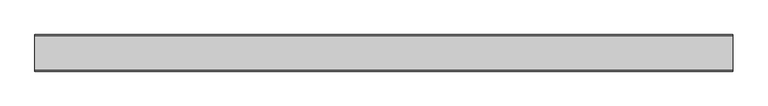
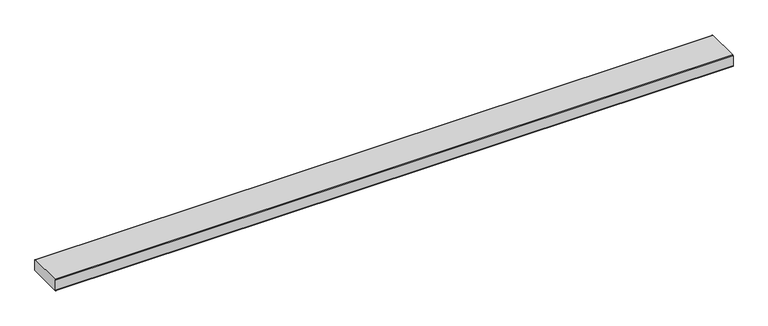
"""IFC4 building model written with IfcOpenShell, lengths in millimetres: duct fitting geometry, Кабель-канал DLP 35x105 - 1 секция - 1 крышка 85 мм - длина 2 м - белый : Кабель-канал DLP 35x105 - 1 секция - 1 крышка 85 мм - длина 2 м - белый."""

from ifc_helpers import new_model, si_unit, point, frame, frame_2d, origin, place, context, project, spatial, polyline, circle_curve, trimmed, segment, composite_curve, outline, extrude, source, transform, mapped, element, save


def duct_fitting_d3901d29(model_context):
    return source(origin(), model_context, "Body", "SweptSolid", [
        extrude(outline(composite_curve([segment(trimmed(circle_curve(frame_2d((50.5, 33.0)), 2.0), [point((50.5, 35.0))], [point((52.5, 33.0))], False, "CARTESIAN"), True, "CONTINUOUS"), segment(polyline([(52.5, 33.0), (52.5, 2.0)]), True, "CONTINUOUS"), segment(trimmed(circle_curve(frame_2d((50.5, 2.0)), 2.0), [point((52.5, 2.0))], [point((50.5, 0.0))], False, "CARTESIAN"), True, "CONTINUOUS"), segment(polyline([(50.5, 0.0), (-50.5, 0.0)]), True, "CONTINUOUS"), segment(trimmed(circle_curve(frame_2d((-50.5, 2.0)), 2.0), [point((-50.5, 0.0))], [point((-52.5, 2.0))], False, "CARTESIAN"), True, "CONTINUOUS"), segment(polyline([(-52.5, 2.0), (-52.5, 33.0)]), True, "CONTINUOUS"), segment(trimmed(circle_curve(frame_2d((-50.5, 33.0)), 2.0), [point((-52.5, 33.0))], [point((-50.5, 35.0))], False, "CARTESIAN"), True, "CONTINUOUS"), segment(polyline([(-50.5, 35.0), (50.5, 35.0)]), True, "CONTINUOUS")], self_intersect=False)), frame((-1000.0, 0.0, 0.0), z_axis=(1.0, 0.0, 0.0), x_axis=(0.0, 1.0, 0.0)), (0.0, 0.0, 1.0), 2000.0),
    ])


if __name__ == "__main__":
    model = new_model("IFC4")
    model_context = context("Model", 3, world=origin())
    ifc_project = project(units=[si_unit("LENGTHUNIT", "METRE", prefix="MILLI")], contexts=[model_context])
    site = spatial("IfcSite", under=ifc_project)
    building = spatial("IfcBuilding", under=site)
    placement = place(None, origin())
    duct_fitting_shape = duct_fitting_d3901d29(model_context)
    element("IfcDuctFitting", 1, ObjectType="Кабель-канал DLP 35x105 - 1 секция - 1 крышка 85 мм - длина 2 м - белый : Кабель-канал DLP 35x105 - 1 секция - 1 крышка 85 мм - длина 2 м - белый", at=placement, inside=building, context=model_context, shape_type="MappedRepresentation", body=[
        mapped(duct_fitting_shape, transform((0.0, 0.0, 0.0), x_axis=(1.0, 0.0, 0.0), y_axis=(0.0, 1.0, 0.0), z_axis=(0.0, 0.0, 1.0))),
    ])
    save(model, "model.ifc")
